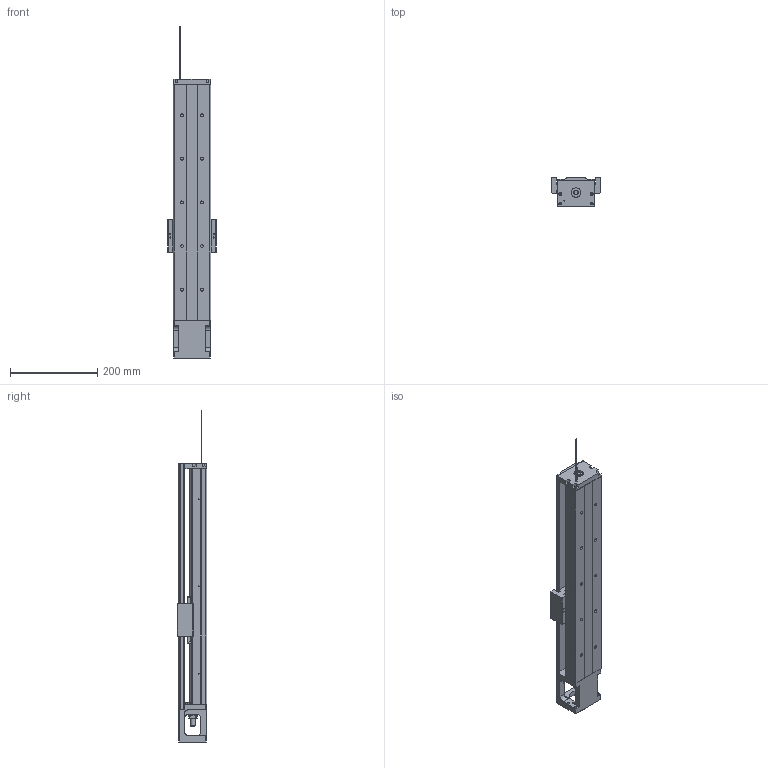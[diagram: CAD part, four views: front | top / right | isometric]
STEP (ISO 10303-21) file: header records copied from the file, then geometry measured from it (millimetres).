
FILE_DESCRIPTION(/* description */ (''),/* implementation_level */ '2;1');
FILE_NAME(/* name */ 'KP46N-540-C-D.stp',/* time_stamp */ '2020-06-05T09:53:41+08:00',/* author */ (''),/* organization */ (''),/* preprocessor_version */ 'ST-DEVELOPER v14',/* originating_system */ 'SIEMENS PLM Software NX 8.0',/* authorisation */ '');
FILE_SCHEMA (('AUTOMOTIVE_DESIGN { 1 0 10303 214 3 1 1 1 }'));
Length unit declared in the file: millimetre
Products named in the file (1): model1
Bounding box: 112 x 68 x 761.89 mm (x, y, z)
Volume: 1765280.6 mm3; surface area: 438683.8 mm2
Topology: 8 solids, 19 shells, 717 faces, 1869 edges, 1230 vertices
Faces by surface type: plane 345, cylinder 255, cone 62, bspline 47, torus 8
Full cylindrical faces by diameter (mm): 2.11 x4, 2.15 x6, 2.42 x8, 2.5 x4, 3 x6, 3.2 x4, 3.3 x12, 3.4 x8, 4 x4, 4.2 x4, 4.5 x8, 5 x14, 6 x8, 6.35 x2, 6.6 x10, 9.6 x1, 10 x4, 11 x10, 12 x1, 14.95 x2, 15 x1, 16 x2, 22 x3, 27.5 x1, 44 x1, 50 x1
Entity records: 32195 total; most frequent: CARTESIAN_POINT 13035, ORIENTED_EDGE 3210, DIRECTION 3170, EDGE_CURVE 1605, AXIS2_PLACEMENT_3D 1164, VERTEX_POINT 1153, EDGE_LOOP 1006, LINE 842
